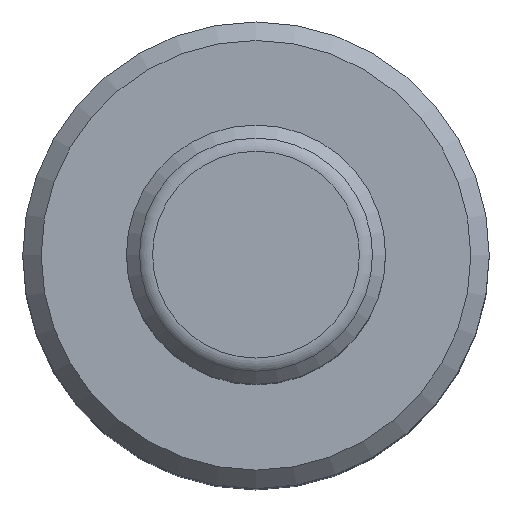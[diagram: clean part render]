
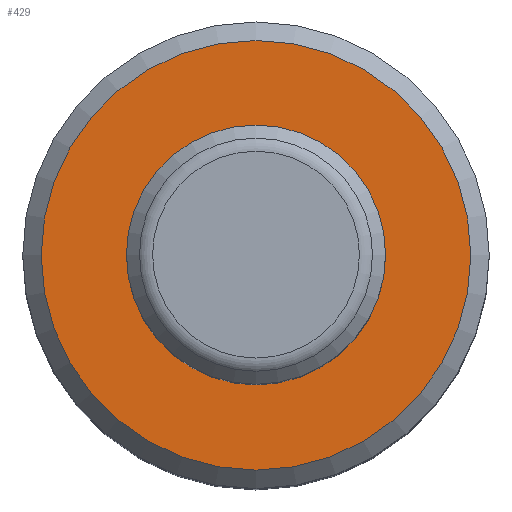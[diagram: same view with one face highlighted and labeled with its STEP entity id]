
A CAD part, top view. The second image highlights one B-rep face of the part: STEP entity #429.
In plain terms, the highlighted planar face has unit normal (0, 0, 1).
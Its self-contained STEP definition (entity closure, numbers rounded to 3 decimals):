
#409 = VERTEX_POINT('',#410);
#410 = CARTESIAN_POINT('',(11.6,0.,43.));
#418 = EDGE_CURVE('',#409,#409,#419,.T.);
#419 = CIRCLE('',#420,11.6);
#420 = AXIS2_PLACEMENT_3D('',#421,#422,#423);
#421 = CARTESIAN_POINT('',(0.,0.,43.));
#422 = DIRECTION('',(0.,0.,1.));
#423 = DIRECTION('',(1.,0.,0.));
#429 = ADVANCED_FACE('',(#430),#433,.T.);
#430 = FACE_BOUND('',#431,.T.);
#431 = EDGE_LOOP('',(#432));
#432 = ORIENTED_EDGE('',*,*,#418,.T.);
#433 = PLANE('',#434);
#434 = AXIS2_PLACEMENT_3D('',#435,#436,#437);
#435 = CARTESIAN_POINT('',(0.,0.,43.));
#436 = DIRECTION('',(0.,0.,1.));
#437 = DIRECTION('',(1.,0.,0.));
